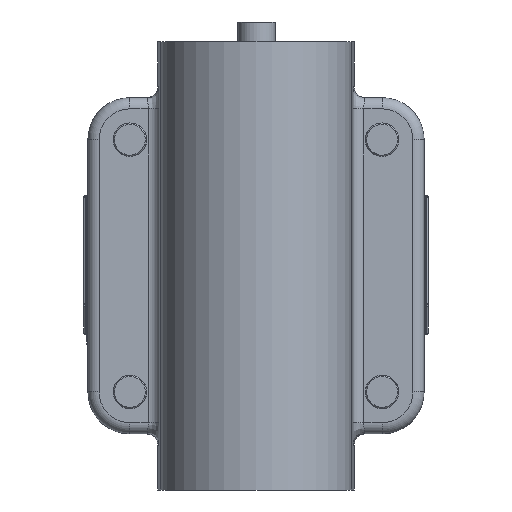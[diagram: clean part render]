
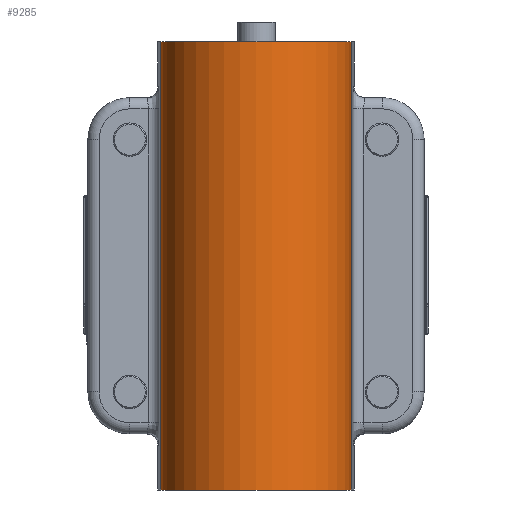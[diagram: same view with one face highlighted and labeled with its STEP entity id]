
A CAD part, front view. The second image highlights one B-rep face of the part: STEP entity #9285.
In plain terms, the highlighted cylindrical face has radius 17 mm (diameter 34 mm), a partial arc.
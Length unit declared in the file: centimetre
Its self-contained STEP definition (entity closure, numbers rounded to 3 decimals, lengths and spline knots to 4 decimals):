
#1581=VECTOR('',#12293,1.);
#1614=VECTOR('',#12422,1.);
#2035=LINE('',#40310,#1581);
#2068=LINE('',#40696,#1614);
#2906=VERTEX_POINT('',#40309);
#2907=VERTEX_POINT('',#40311);
#2927=VERTEX_POINT('',#40503);
#2950=VERTEX_POINT('',#40695);
#3487=CIRCLE('',#10207,1.7);
#3510=CIRCLE('',#10248,1.7);
#4631=EDGE_CURVE('',#2907,#2906,#2035,.T.);
#4663=EDGE_CURVE('',#2906,#2927,#3487,.T.);
#4701=EDGE_CURVE('',#2950,#2927,#2068,.T.);
#4711=EDGE_CURVE('',#2950,#2907,#3510,.T.);
#7115=ORIENTED_EDGE('',*,*,#4663,.T.);
#7116=ORIENTED_EDGE('',*,*,#4701,.F.);
#7117=ORIENTED_EDGE('',*,*,#4711,.T.);
#7118=ORIENTED_EDGE('',*,*,#4631,.T.);
#7945=EDGE_LOOP('',(#7115,#7116,#7117,#7118));
#8651=FACE_BOUND('',#7945,.T.);
#9285=ADVANCED_FACE('',(#8651),#41176,.T.);
#10207=AXIS2_PLACEMENT_3D('',#40504,#12343,#12344);
#10248=AXIS2_PLACEMENT_3D('',#40712,#12439,#12440);
#10260=AXIS2_PLACEMENT_3D('',#40732,#12462,#12463);
#12293=DIRECTION('',(0.,0.,-1.));
#12343=DIRECTION('',(0.,0.,1.));
#12344=DIRECTION('',(-1.7,0.,0.));
#12422=DIRECTION('',(0.,0.,-1.));
#12439=DIRECTION('',(0.,0.,-1.));
#12440=DIRECTION('',(-1.7,0.,0.));
#12462=DIRECTION('',(0.,0.,-1.));
#12463=DIRECTION('',(-1.7,0.,0.));
#40309=CARTESIAN_POINT('',(-2.2328,-8.4791,-1.2115));
#40310=CARTESIAN_POINT('',(-2.2328,-8.4791,6.7885));
#40311=CARTESIAN_POINT('',(-2.2328,-8.4791,6.7885));
#40503=CARTESIAN_POINT('',(1.1651,-8.4791,-1.2115));
#40504=CARTESIAN_POINT('',(-0.5338,-8.4198,-1.2115));
#40695=CARTESIAN_POINT('',(1.1651,-8.4791,6.7885));
#40696=CARTESIAN_POINT('',(1.1651,-8.4791,6.7885));
#40712=CARTESIAN_POINT('',(-0.5338,-8.4198,6.7885));
#40732=CARTESIAN_POINT('',(-0.5338,-8.4198,6.7885));
#41176=CYLINDRICAL_SURFACE('',#10260,1.7);
